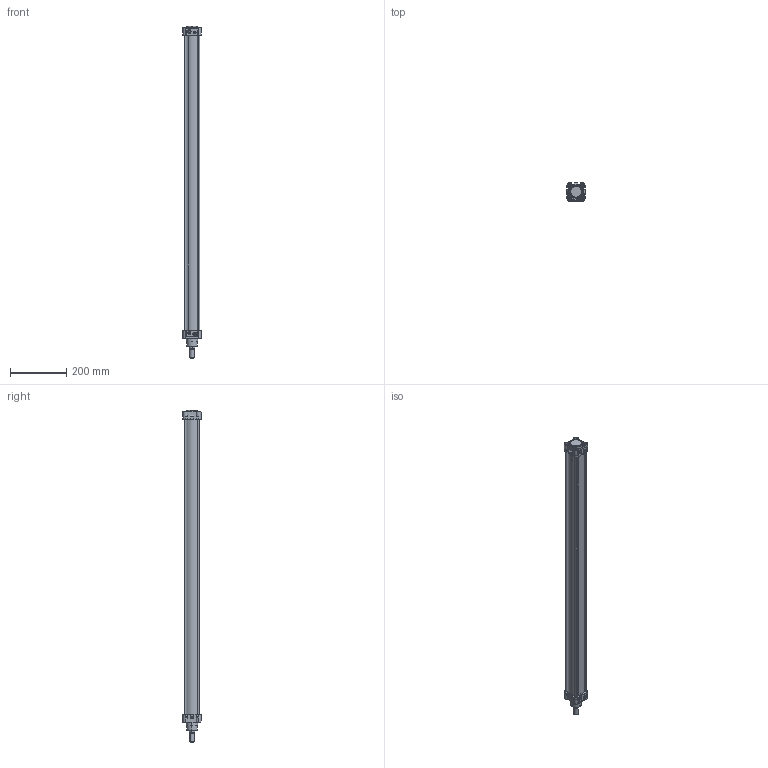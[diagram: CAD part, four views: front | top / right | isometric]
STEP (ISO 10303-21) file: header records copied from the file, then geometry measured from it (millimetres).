
FILE_DESCRIPTION (( 'STEP AP203' ), '1' );
FILE_NAME ('TDNC50x1000CYLINDER.STEP', '2016-04-04T12:04:03', ( 'user' ), ( '' ), 'SwSTEP 2.0', 'SolidWorks 2013', '' );
FILE_SCHEMA (( 'CONFIG_CONTROL_DESIGN' ));
Length unit declared in the file: millimetre
Products named in the file (8): TDNC 50x1000 SAPLAMA; TDNC50x1000CYLINDER; 烰 KAPAK  50; ARKA KAPAK 50; CIVATA 50; ORTA PÝSTON 50; Piston Mili 50x1000; TDNC 50x1000 BORU
Assembly tree (17 placements, depth 2):
  TDNC50x1000CYLINDER
    烰 KAPAK  50
    ARKA KAPAK 50
    CIVATA 50  x8
    ORTA PÝSTON 50
    Piston Mili 50x1000
    TDNC 50x1000 BORU
    TDNC 50x1000 SAPLAMA  x4
Bounding box: 64 x 64.3 x 1179 mm (x, y, z)
Volume: 1197719 mm3; surface area: 637378.9 mm2
Topology: 25 solids, 25 shells, 995 faces, 2440 edges, 1555 vertices
Faces by surface type: plane 428, cylinder 401, cone 80, bspline 66, torus 20
Entity records: 32446 total; most frequent: CARTESIAN_POINT 14101, ORIENTED_EDGE 3824, DIRECTION 3206, EDGE_CURVE 1912, VERTEX_POINT 1255, AXIS2_PLACEMENT_3D 1210, EDGE_LOOP 865, LINE 786
